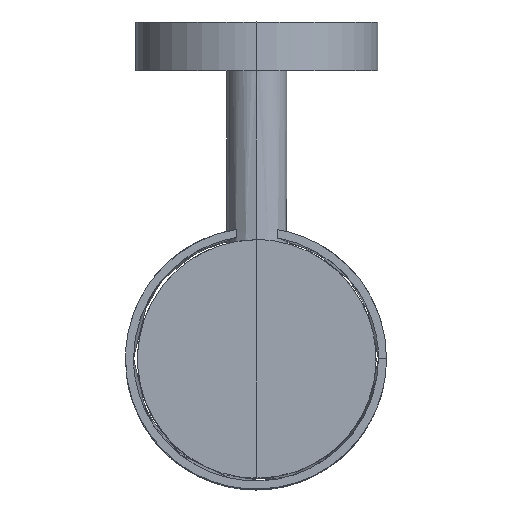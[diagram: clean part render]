
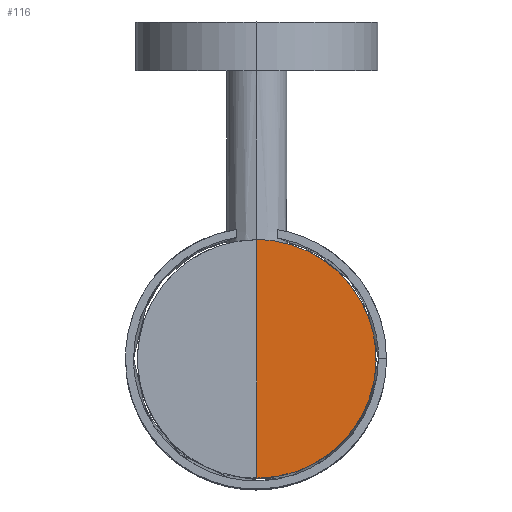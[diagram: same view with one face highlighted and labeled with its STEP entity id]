
A CAD part, top view. The second image highlights one B-rep face of the part: STEP entity #116.
In plain terms, the highlighted free-form (B-spline) face has degree [2, 1] with [5, 2] control points.
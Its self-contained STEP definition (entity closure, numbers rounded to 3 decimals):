
#116=ADVANCED_FACE('',(#295),#5330,.T.);
#295=FACE_OUTER_BOUND('',#476,.T.);
#476=EDGE_LOOP('',(#910,#911,#912));
#910=ORIENTED_EDGE('',*,*,#4507,.F.);
#911=ORIENTED_EDGE('',*,*,#4564,.T.);
#912=ORIENTED_EDGE('',*,*,#4505,.F.);
#1637=PCURVE('',#5312,#2445);
#1639=PCURVE('',#5312,#2447);
#1718=PCURVE('',#5330,#2526);
#1719=PCURVE('',#5330,#2527);
#1720=PCURVE('',#5330,#2528);
#1721=PCURVE('',#5331,#2529);
#2445=DEFINITIONAL_REPRESENTATION('',(#3315),#12838);
#2447=DEFINITIONAL_REPRESENTATION('',(#3318),#12838);
#2526=DEFINITIONAL_REPRESENTATION('',(#3428),#12838);
#2527=DEFINITIONAL_REPRESENTATION('',(#3429),#12838);
#2528=DEFINITIONAL_REPRESENTATION('',(#3430),#12838);
#2529=DEFINITIONAL_REPRESENTATION('',(#3431),#12838);
#3314=B_SPLINE_CURVE_WITH_KNOTS('',1,(#8261,#8262),.UNSPECIFIED.,.F.,.F.,
(2,2),(29.5,59.),.UNSPECIFIED.);
#3315=B_SPLINE_CURVE_WITH_KNOTS('',1,(#8263,#8264),.UNSPECIFIED.,.F.,.F.,
(2,2),(29.5,59.),.UNSPECIFIED.);
#3317=B_SPLINE_CURVE_WITH_KNOTS('',1,(#8272,#8273),.UNSPECIFIED.,.F.,.F.,
(2,2),(-59.,-29.5),.UNSPECIFIED.);
#3318=B_SPLINE_CURVE_WITH_KNOTS('',1,(#8274,#8275),.UNSPECIFIED.,.F.,.F.,
(2,2),(-59.,-29.5),.UNSPECIFIED.);
#3428=B_SPLINE_CURVE_WITH_KNOTS('',1,(#8817,#8818),.UNSPECIFIED.,.F.,.F.,
(2,2),(-59.,-29.5),.UNSPECIFIED.);
#3429=B_SPLINE_CURVE_WITH_KNOTS('',1,(#8824,#8825),.UNSPECIFIED.,.F.,.F.,
(2,2),(-144.5,-72.25),.UNSPECIFIED.);
#3430=B_SPLINE_CURVE_WITH_KNOTS('',1,(#8826,#8827),.UNSPECIFIED.,.F.,.F.,
(2,2),(29.5,59.),.UNSPECIFIED.);
#3431=B_SPLINE_CURVE_WITH_KNOTS('',1,(#8828,#8829),.UNSPECIFIED.,.F.,.F.,
(2,2),(-144.5,-72.25),.UNSPECIFIED.);
#4101=SURFACE_CURVE('',#3314,(#1637,#1720),.PCURVE_S1.);
#4103=SURFACE_CURVE('',#3317,(#1639,#1718),.PCURVE_S1.);
#4160=SURFACE_CURVE('',#4875,(#1719,#1721),.PCURVE_S1.);
#4505=EDGE_CURVE('',#5093,#5119,#4101,.T.);
#4507=EDGE_CURVE('',#5104,#5093,#4103,.T.);
#4564=EDGE_CURVE('',#5104,#5119,#4160,.T.);
#4875=(
BOUNDED_CURVE()
B_SPLINE_CURVE(2,(#8819,#8820,#8821,#8822,#8823),.UNSPECIFIED.,.F.,.F.)
B_SPLINE_CURVE_WITH_KNOTS((3,2,3),(-144.5,-108.375,
-72.25),.UNSPECIFIED.)
CURVE()
GEOMETRIC_REPRESENTATION_ITEM()
RATIONAL_B_SPLINE_CURVE((1.,0.707,1.,0.707,1.))
REPRESENTATION_ITEM('')
);
#5093=VERTEX_POINT('',#8140);
#5104=VERTEX_POINT('',#8151);
#5119=VERTEX_POINT('',#8166);
#5312=(
BOUNDED_SURFACE()
B_SPLINE_SURFACE(2,1,((#7778,#7779),(#7780,#7781),(#7782,#7783),(#7784,
#7785),(#7786,#7787)),.UNSPECIFIED.,.F.,.F.,.F.)
B_SPLINE_SURFACE_WITH_KNOTS((3,2,3),(2,2),(0.,36.125,72.25),
(29.5,59.),.UNSPECIFIED.)
GEOMETRIC_REPRESENTATION_ITEM()
RATIONAL_B_SPLINE_SURFACE(((1.,1.),(0.707,0.707),
(1.,1.),(0.707,0.707),(1.,1.)))
REPRESENTATION_ITEM('')
SURFACE()
);
#5330=(
BOUNDED_SURFACE()
B_SPLINE_SURFACE(2,1,((#7966,#7967),(#7968,#7969),(#7970,#7971),(#7972,
#7973),(#7974,#7975)),.UNSPECIFIED.,.F.,.F.,.F.)
B_SPLINE_SURFACE_WITH_KNOTS((3,2,3),(2,2),(72.25,108.375,
144.5),(29.5,59.),.UNSPECIFIED.)
GEOMETRIC_REPRESENTATION_ITEM()
RATIONAL_B_SPLINE_SURFACE(((1.,1.),(0.707,0.707),
(1.,1.),(0.707,0.707),(1.,1.)))
REPRESENTATION_ITEM('')
SURFACE()
);
#5331=(
BOUNDED_SURFACE()
B_SPLINE_SURFACE(2,1,((#7976,#7977),(#7978,#7979),(#7980,#7981),(#7982,
#7983),(#7984,#7985)),.UNSPECIFIED.,.F.,.F.,.F.)
B_SPLINE_SURFACE_WITH_KNOTS((3,2,3),(2,2),(72.25,108.375,
144.5),(59.,112.5),.UNSPECIFIED.)
GEOMETRIC_REPRESENTATION_ITEM()
RATIONAL_B_SPLINE_SURFACE(((1.,1.),(0.707,0.707),
(1.,1.),(0.707,0.707),(1.,1.)))
REPRESENTATION_ITEM('')
SURFACE()
);
#7778=CARTESIAN_POINT('',(0.,-83.345,28.9));
#7779=CARTESIAN_POINT('',(0.,-112.845,28.9));
#7780=CARTESIAN_POINT('',(0.,-83.345,28.9));
#7781=CARTESIAN_POINT('',(-29.5,-112.845,28.9));
#7782=CARTESIAN_POINT('',(0.,-83.345,28.9));
#7783=CARTESIAN_POINT('',(-29.5,-83.345,28.9));
#7784=CARTESIAN_POINT('',(0.,-83.345,28.9));
#7785=CARTESIAN_POINT('',(-29.5,-53.845,28.9));
#7786=CARTESIAN_POINT('',(0.,-83.345,28.9));
#7787=CARTESIAN_POINT('',(0.,-53.845,28.9));
#7966=CARTESIAN_POINT('',(0.,-83.345,28.9));
#7967=CARTESIAN_POINT('',(0.,-53.845,28.9));
#7968=CARTESIAN_POINT('',(0.,-83.345,28.9));
#7969=CARTESIAN_POINT('',(29.5,-53.845,28.9));
#7970=CARTESIAN_POINT('',(0.,-83.345,28.9));
#7971=CARTESIAN_POINT('',(29.5,-83.345,28.9));
#7972=CARTESIAN_POINT('',(0.,-83.345,28.9));
#7973=CARTESIAN_POINT('',(29.5,-112.845,28.9));
#7974=CARTESIAN_POINT('',(0.,-83.345,28.9));
#7975=CARTESIAN_POINT('',(0.,-112.845,28.9));
#7976=CARTESIAN_POINT('',(0.,-53.845,28.9));
#7977=CARTESIAN_POINT('',(0.,-53.845,-24.6));
#7978=CARTESIAN_POINT('',(29.5,-53.845,28.9));
#7979=CARTESIAN_POINT('',(29.5,-53.845,-24.6));
#7980=CARTESIAN_POINT('',(29.5,-83.345,28.9));
#7981=CARTESIAN_POINT('',(29.5,-83.345,-24.6));
#7982=CARTESIAN_POINT('',(29.5,-112.845,28.9));
#7983=CARTESIAN_POINT('',(29.5,-112.845,-24.6));
#7984=CARTESIAN_POINT('',(0.,-112.845,28.9));
#7985=CARTESIAN_POINT('',(0.,-112.845,-24.6));
#8140=CARTESIAN_POINT('',(0.,-83.345,28.9));
#8151=CARTESIAN_POINT('',(0.,-112.845,28.9));
#8166=CARTESIAN_POINT('',(0.,-53.845,28.9));
#8261=CARTESIAN_POINT('',(0.,-83.345,28.9));
#8262=CARTESIAN_POINT('',(0.,-53.845,28.9));
#8263=CARTESIAN_POINT('',(72.25,29.5));
#8264=CARTESIAN_POINT('',(72.25,59.));
#8272=CARTESIAN_POINT('',(0.,-112.845,28.9));
#8273=CARTESIAN_POINT('',(0.,-83.345,28.9));
#8274=CARTESIAN_POINT('',(0.,59.));
#8275=CARTESIAN_POINT('',(0.,29.5));
#8817=CARTESIAN_POINT('',(144.5,59.));
#8818=CARTESIAN_POINT('',(144.5,29.5));
#8819=CARTESIAN_POINT('',(0.,-112.845,28.9));
#8820=CARTESIAN_POINT('',(29.5,-112.845,28.9));
#8821=CARTESIAN_POINT('',(29.5,-83.345,28.9));
#8822=CARTESIAN_POINT('',(29.5,-53.845,28.9));
#8823=CARTESIAN_POINT('',(0.,-53.845,28.9));
#8824=CARTESIAN_POINT('',(144.5,59.));
#8825=CARTESIAN_POINT('',(72.25,59.));
#8826=CARTESIAN_POINT('',(72.25,29.5));
#8827=CARTESIAN_POINT('',(72.25,59.));
#8828=CARTESIAN_POINT('',(144.5,59.));
#8829=CARTESIAN_POINT('',(72.25,59.));
#12838=(
GEOMETRIC_REPRESENTATION_CONTEXT(2)
PARAMETRIC_REPRESENTATION_CONTEXT()
REPRESENTATION_CONTEXT('pspace','')
);
